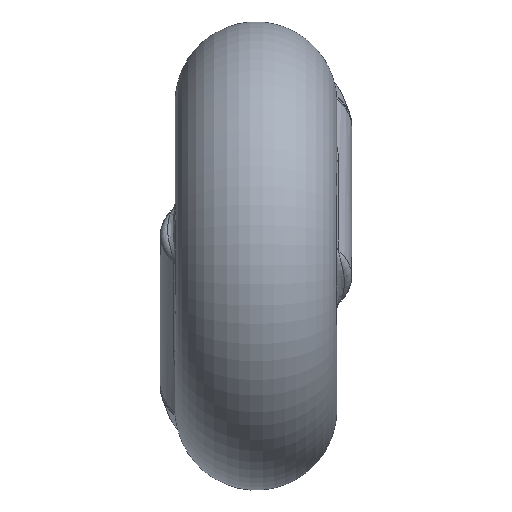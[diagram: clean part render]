
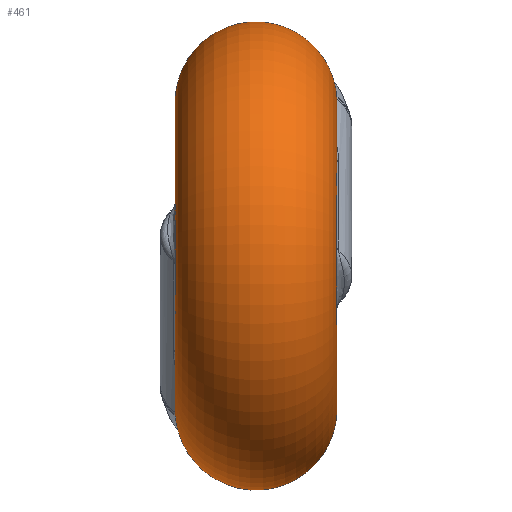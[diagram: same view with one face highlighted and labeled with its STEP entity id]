
A CAD part, left-side view. The second image highlights one B-rep face of the part: STEP entity #461.
In plain terms, the highlighted toroidal (fillet/blend) face has major radius 3.6 mm and minor radius 1.9 mm.
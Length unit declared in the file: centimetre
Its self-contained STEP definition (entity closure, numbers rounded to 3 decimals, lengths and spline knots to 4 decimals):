
#14=TOROIDAL_SURFACE('',#500,0.36,0.19);
#45=B_SPLINE_CURVE_WITH_KNOTS('',3,(#783,#784,#785,#786,#787,#788,#789),
 .UNSPECIFIED.,.F.,.F.,(4,1,1,1,4),(-0.2838,-0.223,
-0.1622,-0.0811,0.),.UNSPECIFIED.);
#47=B_SPLINE_CURVE_WITH_KNOTS('',3,(#827,#828,#829,#830,#831),
 .UNSPECIFIED.,.F.,.F.,(4,1,4),(-0.1263,-0.0631,
0.),.UNSPECIFIED.);
#50=B_SPLINE_CURVE_WITH_KNOTS('',3,(#903,#904,#905,#906,#907,#908,#909,
#910,#911,#912,#913),.UNSPECIFIED.,.F.,.F.,(4,1,1,1,1,1,1,1,4),(-0.9736,
-0.8931,-0.8126,-0.7321,-0.6516,
-0.5711,-0.4906,-0.4705,-0.4101),
 .UNSPECIFIED.);
#51=B_SPLINE_CURVE_WITH_KNOTS('',3,(#920,#921,#922,#923,#924,#925,#926),
 .UNSPECIFIED.,.F.,.F.,(4,1,1,1,4),(-0.2838,-0.223,
-0.1622,-0.0811,0.),
 .UNSPECIFIED.);
#52=B_SPLINE_CURVE_WITH_KNOTS('',3,(#928,#929,#930,#931,#932),
 .UNSPECIFIED.,.F.,.F.,(4,1,4),(-0.1263,-0.0631,
0.),.UNSPECIFIED.);
#53=B_SPLINE_CURVE_WITH_KNOTS('',3,(#934,#935,#936,#937,#938,#939,#940,
#941,#942,#943,#944),.UNSPECIFIED.,.F.,.F.,(4,1,1,1,1,1,1,1,4),(-0.9736,
-0.9334,-0.8931,-0.8126,-0.7321,
-0.6516,-0.5711,-0.4906,-0.4101),
 .UNSPECIFIED.);
#85=FACE_BOUND('',#130,.T.);
#96=FACE_OUTER_BOUND('',#129,.T.);
#129=EDGE_LOOP('',(#315,#316,#317,#318));
#130=EDGE_LOOP('',(#319,#320,#321,#322));
#165=CIRCLE('',#501,0.36);
#166=CIRCLE('',#502,0.36);
#191=VERTEX_POINT('',#739);
#194=VERTEX_POINT('',#780);
#195=VERTEX_POINT('',#782);
#198=VERTEX_POINT('',#825);
#199=VERTEX_POINT('',#918);
#200=VERTEX_POINT('',#919);
#201=VERTEX_POINT('',#927);
#202=VERTEX_POINT('',#933);
#235=EDGE_CURVE('',#194,#195,#45,.T.);
#239=EDGE_CURVE('',#198,#194,#47,.T.);
#242=EDGE_CURVE('',#191,#198,#50,.T.);
#245=EDGE_CURVE('',#199,#200,#51,.T.);
#246=EDGE_CURVE('',#201,#199,#52,.T.);
#247=EDGE_CURVE('',#202,#201,#53,.T.);
#248=EDGE_CURVE('',#202,#200,#165,.T.);
#249=EDGE_CURVE('',#191,#195,#166,.T.);
#315=ORIENTED_EDGE('',*,*,#245,.F.);
#316=ORIENTED_EDGE('',*,*,#246,.F.);
#317=ORIENTED_EDGE('',*,*,#247,.F.);
#318=ORIENTED_EDGE('',*,*,#248,.T.);
#319=ORIENTED_EDGE('',*,*,#242,.F.);
#320=ORIENTED_EDGE('',*,*,#249,.T.);
#321=ORIENTED_EDGE('',*,*,#235,.F.);
#322=ORIENTED_EDGE('',*,*,#239,.F.);
#461=ADVANCED_FACE('',(#96,#85),#14,.T.);
#500=AXIS2_PLACEMENT_3D('',#917,#567,#568);
#501=AXIS2_PLACEMENT_3D('',#945,#569,#570);
#502=AXIS2_PLACEMENT_3D('',#946,#571,#572);
#567=DIRECTION('center_axis',(0.,1.,0.));
#568=DIRECTION('ref_axis',(1.,0.,0.));
#569=DIRECTION('center_axis',(0.,-1.,0.));
#570=DIRECTION('ref_axis',(-1.,0.,0.));
#571=DIRECTION('center_axis',(0.,1.,0.));
#572=DIRECTION('ref_axis',(-1.,0.,0.));
#739=CARTESIAN_POINT('',(0.3583,-0.125,0.0349));
#780=CARTESIAN_POINT('',(0.3759,0.0154,0.3924));
#782=CARTESIAN_POINT('',(0.2788,-0.125,0.2278));
#783=CARTESIAN_POINT('Ctrl Pts',(0.3759,0.0154,0.3924));
#784=CARTESIAN_POINT('Ctrl Pts',(0.3689,-0.0017,
0.3927));
#785=CARTESIAN_POINT('Ctrl Pts',(0.3568,-0.0362,
0.3838));
#786=CARTESIAN_POINT('Ctrl Pts',(0.3397,-0.0827,
0.346));
#787=CARTESIAN_POINT('Ctrl Pts',(0.3202,-0.1157,0.2887));
#788=CARTESIAN_POINT('Ctrl Pts',(0.2959,-0.125,0.2453));
#789=CARTESIAN_POINT('Ctrl Pts',(0.2788,-0.125,0.2278));
#825=CARTESIAN_POINT('',(0.4284,0.1003,0.3396));
#827=CARTESIAN_POINT('Ctrl Pts',(0.4284,0.1003,0.3396));
#828=CARTESIAN_POINT('Ctrl Pts',(0.4184,0.0919,0.3548));
#829=CARTESIAN_POINT('Ctrl Pts',(0.3993,0.0678,0.3814));
#830=CARTESIAN_POINT('Ctrl Pts',(0.3831,0.0331,0.3922));
#831=CARTESIAN_POINT('Ctrl Pts',(0.3759,0.0154,0.3924));
#903=CARTESIAN_POINT('Ctrl Pts',(0.3583,-0.125,0.0349));
#904=CARTESIAN_POINT('Ctrl Pts',(0.3753,-0.125,0.0537));
#905=CARTESIAN_POINT('Ctrl Pts',(0.4158,-0.1187,0.0837));
#906=CARTESIAN_POINT('Ctrl Pts',(0.4772,-0.0815,
0.1039));
#907=CARTESIAN_POINT('Ctrl Pts',(0.5185,-0.0234,
0.125));
#908=CARTESIAN_POINT('Ctrl Pts',(0.5297,0.0435,0.1587));
#909=CARTESIAN_POINT('Ctrl Pts',(0.5082,0.0978,0.21));
#910=CARTESIAN_POINT('Ctrl Pts',(0.4785,0.1151,0.259));
#911=CARTESIAN_POINT('Ctrl Pts',(0.4515,0.1147,0.3033));
#912=CARTESIAN_POINT('Ctrl Pts',(0.438,0.1084,0.325));
#913=CARTESIAN_POINT('Ctrl Pts',(0.4284,0.1003,0.3396));
#917=CARTESIAN_POINT('Origin',(0.,0.065,0.));
#918=CARTESIAN_POINT('',(0.3759,0.1146,-0.3924));
#919=CARTESIAN_POINT('',(0.2788,0.255,-0.2278));
#920=CARTESIAN_POINT('Ctrl Pts',(0.3759,0.1146,-0.3924));
#921=CARTESIAN_POINT('Ctrl Pts',(0.3689,0.1317,-0.3927));
#922=CARTESIAN_POINT('Ctrl Pts',(0.3568,0.1662,-0.3838));
#923=CARTESIAN_POINT('Ctrl Pts',(0.3397,0.2127,-0.346));
#924=CARTESIAN_POINT('Ctrl Pts',(0.3202,0.2457,-0.2887));
#925=CARTESIAN_POINT('Ctrl Pts',(0.2959,0.255,-0.2453));
#926=CARTESIAN_POINT('Ctrl Pts',(0.2788,0.255,-0.2278));
#927=CARTESIAN_POINT('',(0.4284,0.0297,-0.3396));
#928=CARTESIAN_POINT('Ctrl Pts',(0.4284,0.0297,-0.3396));
#929=CARTESIAN_POINT('Ctrl Pts',(0.4184,0.0381,-0.3548));
#930=CARTESIAN_POINT('Ctrl Pts',(0.3993,0.0622,-0.3814));
#931=CARTESIAN_POINT('Ctrl Pts',(0.3831,0.0969,-0.3922));
#932=CARTESIAN_POINT('Ctrl Pts',(0.3759,0.1146,-0.3924));
#933=CARTESIAN_POINT('',(0.3583,0.255,-0.0349));
#934=CARTESIAN_POINT('Ctrl Pts',(0.3583,0.255,-0.0349));
#935=CARTESIAN_POINT('Ctrl Pts',(0.3668,0.255,-0.0443));
#936=CARTESIAN_POINT('Ctrl Pts',(0.385,0.2536,-0.0616));
#937=CARTESIAN_POINT('Ctrl Pts',(0.4261,0.2425,-0.0869));
#938=CARTESIAN_POINT('Ctrl Pts',(0.477,0.2116,-0.104));
#939=CARTESIAN_POINT('Ctrl Pts',(0.5185,0.1534,-0.1249));
#940=CARTESIAN_POINT('Ctrl Pts',(0.5296,0.0865,-0.1587));
#941=CARTESIAN_POINT('Ctrl Pts',(0.5082,0.0321,-0.21));
#942=CARTESIAN_POINT('Ctrl Pts',(0.4685,0.0092,
-0.2753));
#943=CARTESIAN_POINT('Ctrl Pts',(0.4412,0.019,-0.3202));
#944=CARTESIAN_POINT('Ctrl Pts',(0.4284,0.0297,-0.3396));
#945=CARTESIAN_POINT('Origin',(0.,0.255,0.));
#946=CARTESIAN_POINT('Origin',(0.,-0.125,0.));
